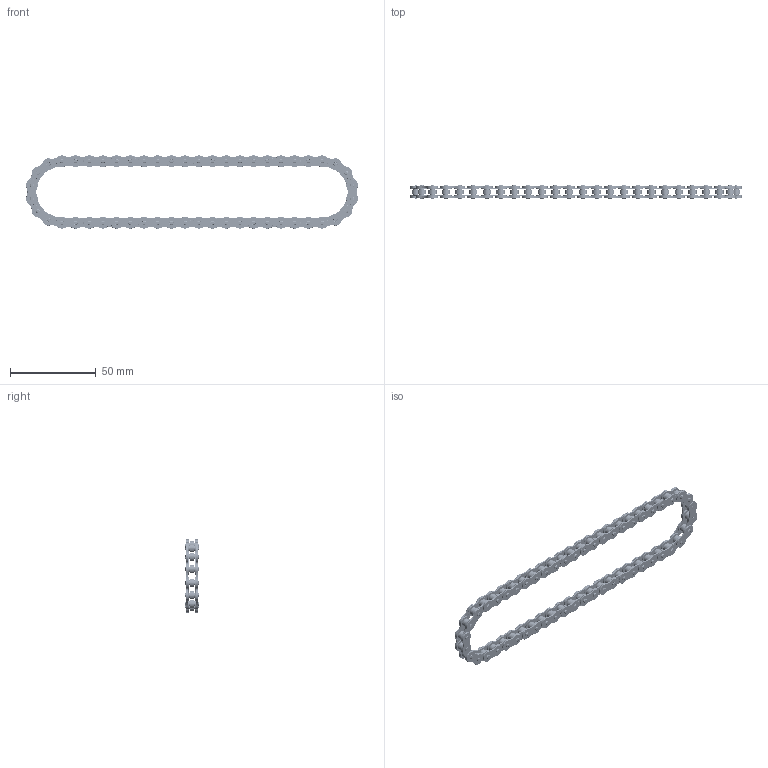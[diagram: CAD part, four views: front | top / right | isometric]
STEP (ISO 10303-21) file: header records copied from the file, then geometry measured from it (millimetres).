
FILE_DESCRIPTION(/* description */ (''),/* implementation_level */ '2;1');
FILE_NAME(/* name */ '3315-0008-0052 Loop.step',/* time_stamp */ '2024-06-26T13:47:55-05:00',/* author */ (''),/* organization */ (''),/* preprocessor_version */ 'ST-DEVELOPER v20',/* originating_system */ 'Autodesk Translation Framework v13.14.0.145',/* authorisation */ '');
FILE_SCHEMA (('AUTOMOTIVE_DESIGN { 1 0 10303 214 3 1 1 }'));
Length unit declared in the file: millimetre
Products named in the file (7): 3315-0008-0052 Loop; Arc_A; Arc_B; Length_A; Length_B; OUT; IN
Assembly tree (56 placements, depth 3):
  3315-0008-0052 Loop
    Arc_A
      OUT  x3
      IN  x4
    Arc_B
      OUT  x3
      IN  x4
    Length_A
      OUT  x10
      IN  x9
    Length_B
      OUT  x10
      IN  x9
Bounding box: 193.93 x 7.65 x 42.83 mm (x, y, z)
Volume: 9680.8 mm3; surface area: 31831 mm2
Topology: 260 solids, 260 shells, 4446 faces, 10010 edges, 5746 vertices
Faces by surface type: bspline 1482, torus 1144, cylinder 1092, plane 728
Full cylindrical faces by diameter (mm): 2.35 x156, 2.36 x52, 2.98 x52, 3 x156, 4.92 x52
Entity records: 7107 total; most frequent: CARTESIAN_POINT 3259, DIRECTION 812, ORIENTED_EDGE 692, AXIS2_PLACEMENT_3D 381, EDGE_CURVE 346, VERTEX_POINT 208, CIRCLE 204, EDGE_LOOP 182
